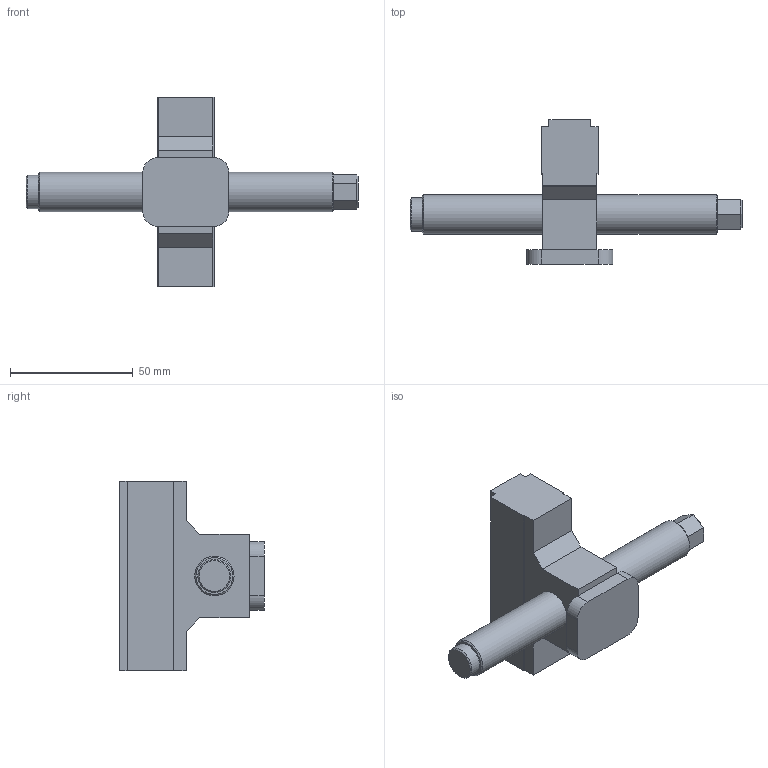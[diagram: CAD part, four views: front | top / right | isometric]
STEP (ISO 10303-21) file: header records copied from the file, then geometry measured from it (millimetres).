
FILE_DESCRIPTION (( 'STEP AP214' ), '1' );
FILE_NAME ('48120-TG7717.STEP', '2020-03-24T14:39:55', ( '' ), ( '' ), 'SwSTEP 2.0', 'SolidWorks 2019', '' );
FILE_SCHEMA (( 'AUTOMOTIVE_DESIGN' ));
Length unit declared in the file: millimetre
Products named in the file (1): 48120-TG7717
Bounding box: 135 x 58.8 x 77 mm (x, y, z)
Volume: 93130 mm3; surface area: 18731.6 mm2
Topology: 1 solids, 1 shells, 67 faces, 163 edges, 103 vertices
Faces by surface type: plane 57, cylinder 7, cone 3
Full cylindrical faces by diameter (mm): 13.5 x1, 16 x2
Entity records: 2410 total; most frequent: CARTESIAN_POINT 324, ORIENTED_EDGE 310, DIRECTION 308, EDGE_CURVE 155, VECTOR 138, LINE 138, VERTEX_POINT 101, AXIS2_PLACEMENT_3D 85
